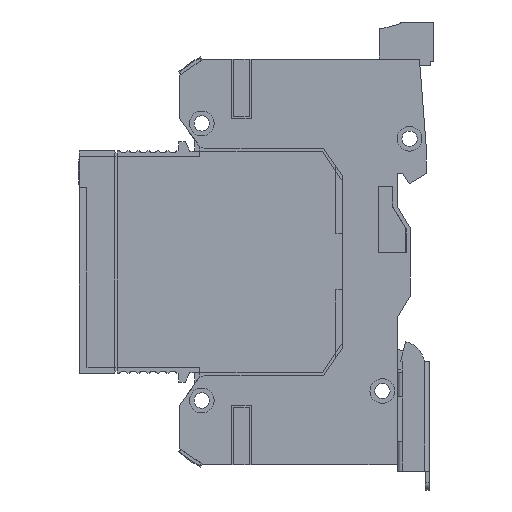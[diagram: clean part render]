
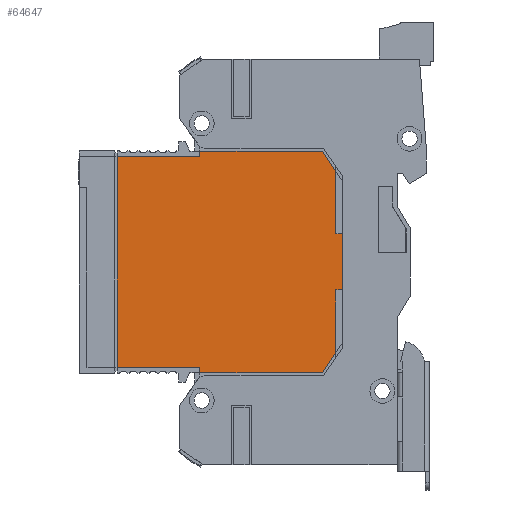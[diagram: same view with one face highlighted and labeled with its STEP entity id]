
A CAD part, left-side view. The second image highlights one B-rep face of the part: STEP entity #64647.
In plain terms, the highlighted planar face has unit normal (-1, 0, 0) as drawn and (0, -1, 0) by its records, which use the part's own axes.
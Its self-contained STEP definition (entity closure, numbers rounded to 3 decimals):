
#48 = ORIENTED_EDGE ( 'NONE', *, *, #7741, .T. ) ;
#196 = CARTESIAN_POINT ( 'NONE',  ( -21.3, 0., -25.15 ) ) ;
#1421 = DIRECTION ( 'NONE',  ( 0., 0., -1. ) ) ;
#1866 = ORIENTED_EDGE ( 'NONE', *, *, #51364, .F. ) ;
#2138 = AXIS2_PLACEMENT_3D ( 'NONE', #6358, #32501, #47074 ) ;
#2709 = LINE ( 'NONE', #16832, #42286 ) ;
#2742 = EDGE_CURVE ( 'NONE', #39001, #12011, #34565, .T. ) ;
#3126 = VECTOR ( 'NONE', #25221, 1000. ) ;
#3204 = CARTESIAN_POINT ( 'NONE',  ( 5.65, 0., 25.15 ) ) ;
#3397 = DIRECTION ( 'NONE',  ( 0., 0., 1. ) ) ;
#3486 = EDGE_CURVE ( 'NONE', #36873, #39944, #2709, .T. ) ;
#3673 = CARTESIAN_POINT ( 'NONE',  ( -22.4, 0., -2.35 ) ) ;
#4422 = VECTOR ( 'NONE', #6707, 1000. ) ;
#5905 = VERTEX_POINT ( 'NONE', #60851 ) ;
#6309 = CARTESIAN_POINT ( 'NONE',  ( -21.3, 0., -2.35 ) ) ;
#6358 = CARTESIAN_POINT ( 'NONE',  ( 0., 0., 0. ) ) ;
#6707 = DIRECTION ( 'NONE',  ( -1., 0., 0. ) ) ;
#7741 = EDGE_CURVE ( 'NONE', #12011, #25655, #17667, .T. ) ;
#9170 = EDGE_CURVE ( 'NONE', #30611, #14780, #34117, .T. ) ;
#10384 = CARTESIAN_POINT ( 'NONE',  ( 22.4, 0., -2.35 ) ) ;
#10749 = VECTOR ( 'NONE', #41875, 1000. ) ;
#11536 = CARTESIAN_POINT ( 'NONE',  ( 21.3, 0., -2.35 ) ) ;
#11831 = EDGE_LOOP ( 'NONE', ( #58332, #25361, #57295, #20863, #1866, #53960, #38129, #64760, #34613, #48, #16177, #65594, #65385, #57735 ) ) ;
#11879 = EDGE_CURVE ( 'NONE', #5905, #25655, #30996, .T. ) ;
#12011 = VERTEX_POINT ( 'NONE', #23102 ) ;
#12786 = EDGE_CURVE ( 'NONE', #42672, #49431, #65009, .T. ) ;
#13221 = LINE ( 'NONE', #36259, #23546 ) ;
#14652 = FACE_OUTER_BOUND ( 'NONE', #11831, .T. ) ;
#14670 = CARTESIAN_POINT ( 'NONE',  ( -22.4, 0., 22.45 ) ) ;
#14741 = LINE ( 'NONE', #38811, #52808 ) ;
#14780 = VERTEX_POINT ( 'NONE', #10384 ) ;
#16177 = ORIENTED_EDGE ( 'NONE', *, *, #11879, .F. ) ;
#16832 = CARTESIAN_POINT ( 'NONE',  ( -21.3, 0., 25.15 ) ) ;
#17339 = CARTESIAN_POINT ( 'NONE',  ( 21.3, 0., -25.15 ) ) ;
#17667 = LINE ( 'NONE', #41981, #50977 ) ;
#18076 = EDGE_CURVE ( 'NONE', #22018, #41164, #14741, .T. ) ;
#18361 = EDGE_CURVE ( 'NONE', #42672, #28515, #54345, .T. ) ;
#19361 = DIRECTION ( 'NONE',  ( 0., 0., 1. ) ) ;
#19954 = CARTESIAN_POINT ( 'NONE',  ( -21.3, 0., -19.05 ) ) ;
#20863 = ORIENTED_EDGE ( 'NONE', *, *, #9170, .T. ) ;
#20975 = VECTOR ( 'NONE', #34400, 1000. ) ;
#21543 = VECTOR ( 'NONE', #1421, 1000. ) ;
#21576 = CARTESIAN_POINT ( 'NONE',  ( 18.3, 0., 25.15 ) ) ;
#22018 = VERTEX_POINT ( 'NONE', #56799 ) ;
#22097 = VECTOR ( 'NONE', #55359, 1000. ) ;
#23102 = CARTESIAN_POINT ( 'NONE',  ( -5.65, 0., 26.55 ) ) ;
#23546 = VECTOR ( 'NONE', #26080, 1000. ) ;
#25221 = DIRECTION ( 'NONE',  ( 0., 0., 1. ) ) ;
#25361 = ORIENTED_EDGE ( 'NONE', *, *, #18076, .F. ) ;
#25655 = VERTEX_POINT ( 'NONE', #25849 ) ;
#25849 = CARTESIAN_POINT ( 'NONE',  ( -5.65, 0., 25.15 ) ) ;
#26080 = DIRECTION ( 'NONE',  ( 0.835, 0., -0.55 ) ) ;
#26895 = CARTESIAN_POINT ( 'NONE',  ( -22.4, 0., 22.45 ) ) ;
#27557 = DIRECTION ( 'NONE',  ( 1., 0., 0. ) ) ;
#28515 = VERTEX_POINT ( 'NONE', #6309 ) ;
#28639 = LINE ( 'NONE', #17339, #21543 ) ;
#30611 = VERTEX_POINT ( 'NONE', #11536 ) ;
#30996 = LINE ( 'NONE', #56975, #41260 ) ;
#32501 = DIRECTION ( 'NONE',  ( 0., 1., 0. ) ) ;
#34117 = LINE ( 'NONE', #61262, #44383 ) ;
#34400 = DIRECTION ( 'NONE',  ( 0.835, 0., 0.55 ) ) ;
#34565 = LINE ( 'NONE', #57827, #4422 ) ;
#34613 = ORIENTED_EDGE ( 'NONE', *, *, #2742, .T. ) ;
#34942 = EDGE_CURVE ( 'NONE', #49431, #5905, #47125, .T. ) ;
#36110 = VECTOR ( 'NONE', #3397, 1000. ) ;
#36192 = EDGE_CURVE ( 'NONE', #39944, #39637, #13221, .T. ) ;
#36259 = CARTESIAN_POINT ( 'NONE',  ( 22.4, 0., 22.45 ) ) ;
#36610 = CARTESIAN_POINT ( 'NONE',  ( 5.65, 0., 25.15 ) ) ;
#36873 = VERTEX_POINT ( 'NONE', #36610 ) ;
#37037 = DIRECTION ( 'NONE',  ( 1., 0., 0. ) ) ;
#38129 = ORIENTED_EDGE ( 'NONE', *, *, #3486, .F. ) ;
#38811 = CARTESIAN_POINT ( 'NONE',  ( -21.3, 0., -19.05 ) ) ;
#39001 = VERTEX_POINT ( 'NONE', #40355 ) ;
#39637 = VERTEX_POINT ( 'NONE', #63224 ) ;
#39944 = VERTEX_POINT ( 'NONE', #21576 ) ;
#40103 = EDGE_CURVE ( 'NONE', #30611, #22018, #28639, .T. ) ;
#40331 = LINE ( 'NONE', #55144, #22097 ) ;
#40355 = CARTESIAN_POINT ( 'NONE',  ( 5.65, 0., 26.55 ) ) ;
#40833 = LINE ( 'NONE', #3204, #36110 ) ;
#41164 = VERTEX_POINT ( 'NONE', #19954 ) ;
#41260 = VECTOR ( 'NONE', #27557, 1000. ) ;
#41875 = DIRECTION ( 'NONE',  ( 1., 0., 0. ) ) ;
#41981 = CARTESIAN_POINT ( 'NONE',  ( -5.65, 0., 25.15 ) ) ;
#42286 = VECTOR ( 'NONE', #37037, 1000. ) ;
#42672 = VERTEX_POINT ( 'NONE', #57570 ) ;
#44383 = VECTOR ( 'NONE', #60577, 1000. ) ;
#44793 = EDGE_CURVE ( 'NONE', #36873, #39001, #40833, .T. ) ;
#47074 = DIRECTION ( 'NONE',  ( 0., 0., 1. ) ) ;
#47125 = LINE ( 'NONE', #14670, #20975 ) ;
#47491 = DIRECTION ( 'NONE',  ( 0., 0., -1. ) ) ;
#49431 = VERTEX_POINT ( 'NONE', #26895 ) ;
#49933 = VECTOR ( 'NONE', #19361, 1000. ) ;
#50977 = VECTOR ( 'NONE', #47491, 1000. ) ;
#51364 = EDGE_CURVE ( 'NONE', #39637, #14780, #40331, .T. ) ;
#52174 = PLANE ( 'NONE',  #2138 ) ;
#52808 = VECTOR ( 'NONE', #53626, 1000. ) ;
#53626 = DIRECTION ( 'NONE',  ( -1., 0., 0. ) ) ;
#53960 = ORIENTED_EDGE ( 'NONE', *, *, #36192, .F. ) ;
#54345 = LINE ( 'NONE', #62664, #10749 ) ;
#55144 = CARTESIAN_POINT ( 'NONE',  ( 22.4, 0., -2.35 ) ) ;
#55359 = DIRECTION ( 'NONE',  ( 0., 0., -1. ) ) ;
#56662 = EDGE_CURVE ( 'NONE', #41164, #28515, #61772, .T. ) ;
#56799 = CARTESIAN_POINT ( 'NONE',  ( 21.3, 0., -19.05 ) ) ;
#56975 = CARTESIAN_POINT ( 'NONE',  ( -21.3, 0., 25.15 ) ) ;
#57295 = ORIENTED_EDGE ( 'NONE', *, *, #40103, .F. ) ;
#57570 = CARTESIAN_POINT ( 'NONE',  ( -22.4, 0., -2.35 ) ) ;
#57735 = ORIENTED_EDGE ( 'NONE', *, *, #18361, .T. ) ;
#57827 = CARTESIAN_POINT ( 'NONE',  ( -5.65, 0., 26.55 ) ) ;
#58332 = ORIENTED_EDGE ( 'NONE', *, *, #56662, .F. ) ;
#60577 = DIRECTION ( 'NONE',  ( 1., 0., 0. ) ) ;
#60851 = CARTESIAN_POINT ( 'NONE',  ( -18.3, 0., 25.15 ) ) ;
#61262 = CARTESIAN_POINT ( 'NONE',  ( 21.3, 0., -2.35 ) ) ;
#61772 = LINE ( 'NONE', #196, #3126 ) ;
#62664 = CARTESIAN_POINT ( 'NONE',  ( -21.3, 0., -2.35 ) ) ;
#63224 = CARTESIAN_POINT ( 'NONE',  ( 22.4, 0., 22.45 ) ) ;
#64647 = ADVANCED_FACE ( 'NONE', ( #14652 ), #52174, .F. ) ;
#64760 = ORIENTED_EDGE ( 'NONE', *, *, #44793, .T. ) ;
#65009 = LINE ( 'NONE', #3673, #49933 ) ;
#65385 = ORIENTED_EDGE ( 'NONE', *, *, #12786, .F. ) ;
#65594 = ORIENTED_EDGE ( 'NONE', *, *, #34942, .F. ) ;
